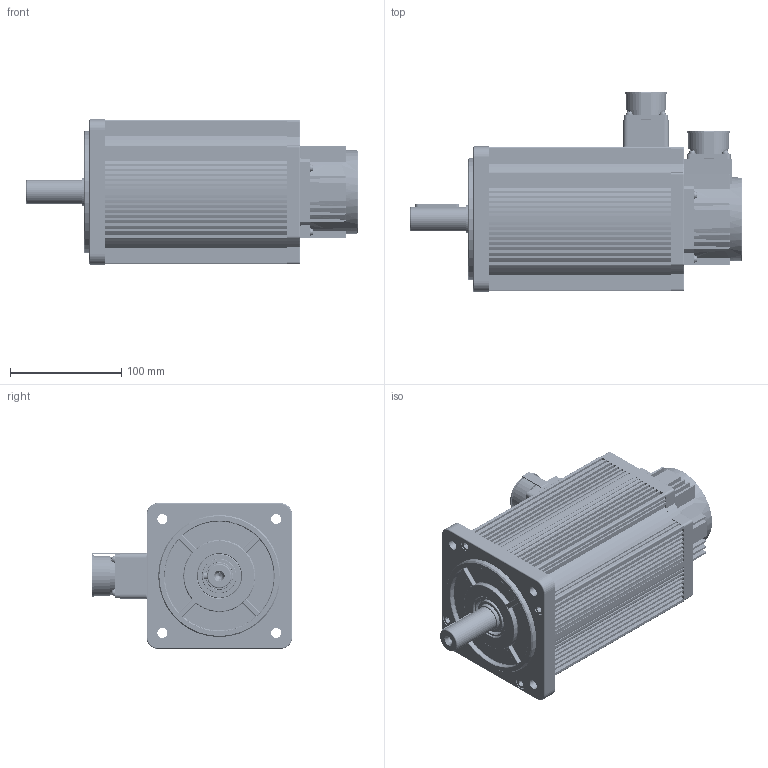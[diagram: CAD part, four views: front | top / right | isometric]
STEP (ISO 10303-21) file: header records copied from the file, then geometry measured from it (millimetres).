
FILE_DESCRIPTION (( 'STEP AP203' ), '1' );
FILE_NAME ('K1-130×°Åä 15Nm 2500Rpm.STEP', '2020-01-04T07:13:08', ( 'gs' ), ( 'Microsoft' ), 'SwSTEP 2.0', 'SolidWorks 2019', '' );
FILE_SCHEMA (( 'CONFIG_CONTROL_DESIGN' ));
Length unit declared in the file: millimetre
Products named in the file (23): K1-130密封圈; K1-130盄簽砎蝶菜; M4X16啋儂; K1-130隅赽郪璃 15Nm 2500Rpm; K1-130誘欶躇猾菜; K1-130瑤脣15郋; K1-130瑤脣雄薯盄; K1-130ヶ傷裔 譙跡; curved single coil spring lock washers gb_GB_FASTENER_WASHER_CSLW 4; M3X12啋儂; K1-130蚾饜 15Nm 2500Rpm; K1-130綴傷裔 譙跡; M3X8囀鞠褒; K1-130す瑩; K1-130粣 15Nm 1500Rpm; M3す菜; K1-130瑤脣砎蝶菜; K1-130蛌赽郪璃 15Nm 2500Rpm; M6粟菜; K1-110晤鎢ん誘欶; M6X20; K1-130諉盄釱; K1-130儂褲樓馱綴 15Nm 1500Rpm
Assembly tree (67 placements, depth 3):
  K1-130蚾饜 15Nm 2500Rpm
    K1-130隅赽郪璃 15Nm 2500Rpm
      K1-130儂褲樓馱綴 15Nm 1500Rpm
    K1-130ヶ傷裔 譙跡
    K1-130綴傷裔 譙跡
    K1-130蛌赽郪璃 15Nm 2500Rpm
      K1-130粣 15Nm 1500Rpm
    K1-110晤鎢ん誘欶
    K1-130密封圈
    K1-130誘欶躇猾菜
    curved single coil spring lock washers gb_GB_FASTENER_WASHER_CSLW 4  x13
    M3X8囀鞠褒
    M3す菜  x9
    M6粟菜  x8
    M6X20  x8
    K1-130盄簽砎蝶菜  x2
    K1-130瑤脣15郋
    M3X12啋儂  x8
    K1-130す瑩
    K1-130瑤脣砎蝶菜
    K1-130諉盄釱
    M4X16啋儂  x4
    K1-130瑤脣雄薯盄
Bounding box: 299 x 180.1 x 131 mm (x, y, z)
Volume: 1039530.5 mm3; surface area: 510539.5 mm2
Topology: 67 solids, 69 shells, 3424 faces, 9241 edges, 6077 vertices
Faces by surface type: cylinder 2092, plane 1065, bspline 137, cone 70, torus 60
Entity records: 114866 total; most frequent: CARTESIAN_POINT 62295, ORIENTED_EDGE 11192, DIRECTION 9336, EDGE_CURVE 5596, VERTEX_POINT 3670, AXIS2_PLACEMENT_3D 3302, VECTOR 2732, LINE 2732
